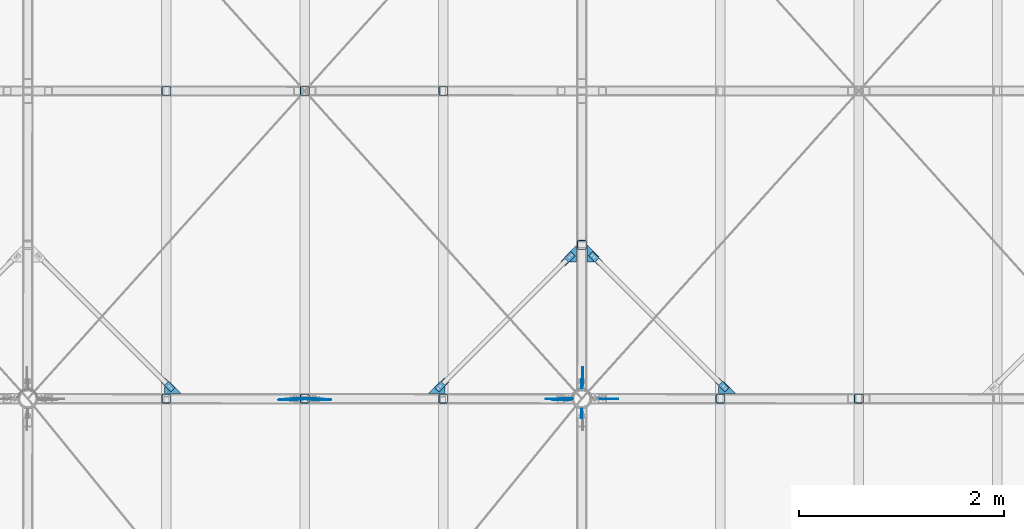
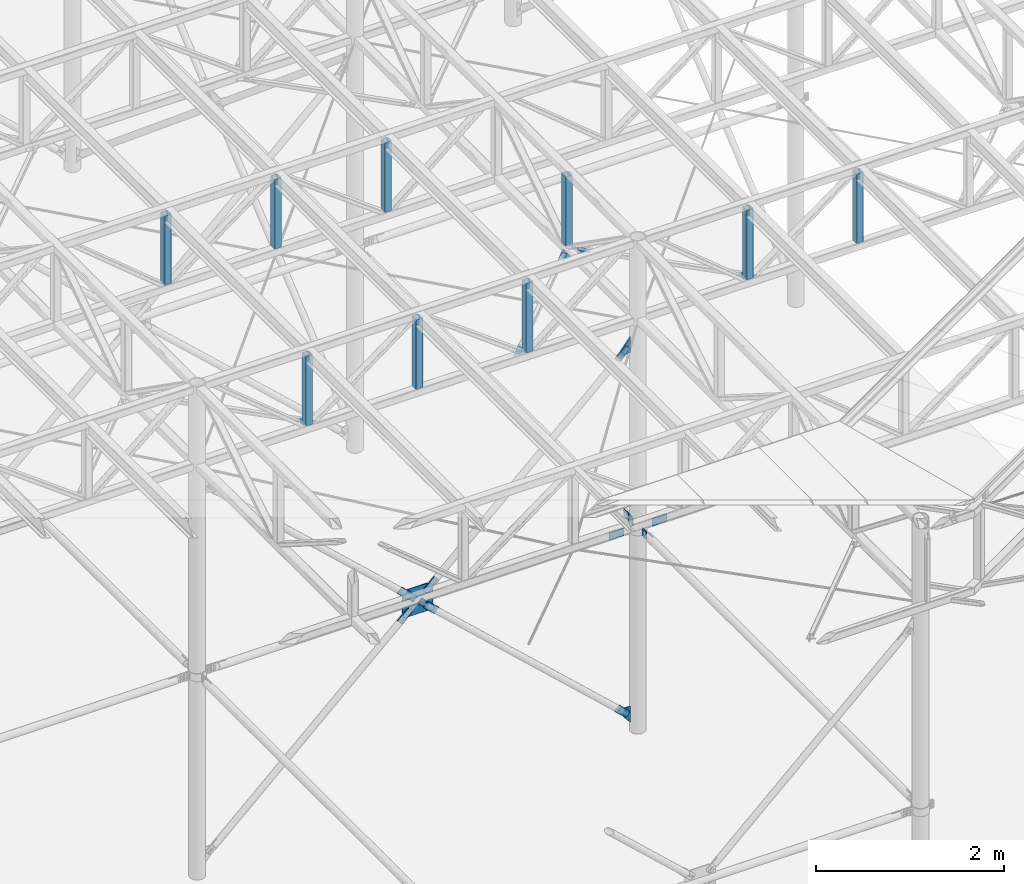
# One storey, part 80 of 132: 42 discrete accessories, 20 elements without a shape of their own.
"""IFC2X3 building model written with IfcOpenShell, lengths in millimetres."""

from ifc_helpers import new_model, si_unit, frame, origin_with_axes, origin_2d_with_axis, place, context, subcontext, project, spatial, polyline, rectangle, hollow_rectangle, outline, extrude, boolean, clip, halfspace, material, type_object, element, aggregate, save


model = new_model("IFC2X3")

# Units and contexts
model_context = context("Model", 3, precision=1e-05, world=origin_with_axes())
body_context = subcontext(model_context, "Body", "Model", "MODEL_VIEW")
ifc_project = project(units=[si_unit("LENGTHUNIT", "METRE", prefix="MILLI"), si_unit("AREAUNIT", "SQUARE_METRE"), si_unit("VOLUMEUNIT", "CUBIC_METRE"), si_unit("MASSUNIT", "GRAM", prefix="KILO"), si_unit("TIMEUNIT", "SECOND"), si_unit("PLANEANGLEUNIT", "RADIAN"), si_unit("SOLIDANGLEUNIT", "STERADIAN"), si_unit("THERMODYNAMICTEMPERATUREUNIT", "DEGREE_CELSIUS"), si_unit("LUMINOUSINTENSITYUNIT", "LUMEN")], contexts=[model_context])

# Site, building, storey
site_placement = place(None, origin_with_axes())
site = spatial("IfcSite", under=ifc_project, at=site_placement, Name="Budowa", CompositionType="ELEMENT")
building_placement = place(site_placement, origin_with_axes())
building = spatial("IfcBuilding", under=site, at=building_placement, Name="Undefined", CompositionType="ELEMENT")
storey_placement = place(building_placement, origin_with_axes())
storey = spatial("IfcBuildingStorey", under=building, at=storey_placement, Name="Undefined", CompositionType="ELEMENT", Elevation=0.0)

# Assembly, discrete accessory
assembly_1_placement = place(storey_placement, origin_with_axes())
assembly_1 = element("IfcElementAssembly", 1, at=assembly_1_placement, inside=storey, Name="Steel Assembly", AssemblyPlace="NOTDEFINED", PredefinedType="RIGID_FRAME")
ifc_material = material(Name="STEEL/S235")
discrete_accessory_type_1 = type_object("IfcDiscreteAccessoryType", Name="BLACHA")
discrete_accessory_1_placement = place(assembly_1_placement, frame((14998.1366941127, 5997.99999945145, 10116.0003779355), z_axis=(0.0, -1.0, 0.0), x_axis=(1.0, 0.0, 0.0)))
discrete_accessory_1 = element("IfcDiscreteAccessory", 2, at=discrete_accessory_1_placement, type_object=discrete_accessory_type_1, material=ifc_material, Name="BLACHA", ObjectType="BL8*100", context=body_context, shape_type="SweptSolid", body=[
    extrude(outline(polyline([(0.0, -50.0), (0.0, 50.0), (180.0, 50.0), (180.0, -50.0), (0.0, -50.0)])), frame((0.0, 0.0, -4.0), z_axis=(0.0, 0.0, 1.0), x_axis=(1.0, 0.0, 0.0)), (0.0, 0.0, 1.0), 8.0),
])
aggregate(assembly_1, [discrete_accessory_1])

assembly_2_placement = place(storey_placement, origin_with_axes())
assembly_2 = element("IfcElementAssembly", 3, at=assembly_2_placement, inside=storey, Name="Steel Assembly", AssemblyPlace="NOTDEFINED", PredefinedType="RIGID_FRAME")
discrete_accessory_2_placement = place(assembly_2_placement, frame((14824.9999972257, 5902.00435667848, 10066.0003759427), z_axis=(1.0, 0.0, 0.0), x_axis=(0.0, 0.0, 1.0)))
discrete_accessory_2 = element("IfcDiscreteAccessory", 4, at=discrete_accessory_2_placement, type_object=discrete_accessory_type_1, material=ifc_material, Name="BLACHA", ObjectType="BL8*90", context=body_context, shape_type="SweptSolid", body=[
    extrude(outline(polyline([(0.0, 0.0), (100.0, 0.0), (100.0, 89.9122619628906), (0.0, 89.9122619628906), (0.0, 0.0)])), frame((0.0, 0.0, -4.0), z_axis=(0.0, 0.0, 1.0), x_axis=(1.0, 0.0, 0.0)), (0.0, 0.0, 1.0), 8.0),
])
aggregate(assembly_2, [discrete_accessory_2])

assembly_3_placement = place(storey_placement, origin_with_axes())
assembly_3 = element("IfcElementAssembly", 5, at=assembly_3_placement, inside=storey, Name="Steel Assembly", AssemblyPlace="NOTDEFINED", PredefinedType="RIGID_FRAME")
discrete_accessory_3_placement = place(assembly_3_placement, frame((14832.9999969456, 6127.90790542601, 10116.0003779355), z_axis=(-1.0, 0.0, 0.0), x_axis=(0.0, 1.0, 0.0)))
discrete_accessory_3 = element("IfcDiscreteAccessory", 6, at=discrete_accessory_3_placement, type_object=discrete_accessory_type_1, material=ifc_material, Name="BLACHA", ObjectType="BL8*100", context=body_context, shape_type="SweptSolid", body=[
    extrude(outline(polyline([(0.0, 50.0), (180.0, 50.0), (180.0, -50.0), (0.0, -50.0), (0.0, 50.0)])), frame((0.0, 0.0, -4.0), z_axis=(0.0, 0.0, 1.0), x_axis=(1.0, 0.0, 0.0)), (0.0, 0.0, 1.0), 8.0),
])
aggregate(assembly_3, [discrete_accessory_3])

assembly_4_placement = place(storey_placement, origin_with_axes())
assembly_4 = element("IfcElementAssembly", 7, at=assembly_4_placement, inside=storey, Name="Steel Assembly", AssemblyPlace="NOTDEFINED", PredefinedType="RIGID_FRAME")
discrete_accessory_4_placement = place(assembly_4_placement, frame((14824.9999969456, 6097.99564346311, 10166.0003762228), z_axis=(1.0, 0.0, 0.0), x_axis=(0.0, 0.0, -1.0)))
discrete_accessory_4 = element("IfcDiscreteAccessory", 8, at=discrete_accessory_4_placement, type_object=discrete_accessory_type_1, material=ifc_material, Name="BLACHA", ObjectType="BL8*90", context=body_context, shape_type="SweptSolid", body=[
    extrude(outline(polyline([(0.0, 0.0), (100.0, 0.0), (100.0, 89.9122619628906), (0.0, 89.9122619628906), (0.0, 0.0)])), frame((0.0, 0.0, -4.0), z_axis=(0.0, 0.0, 1.0), x_axis=(1.0, 0.0, 0.0)), (0.0, 0.0, 1.0), 8.0),
])
aggregate(assembly_4, [discrete_accessory_4])

assembly_5_placement = place(storey_placement, origin_with_axes())
assembly_5 = element("IfcElementAssembly", 9, at=assembly_5_placement, inside=storey, Name="Steel Assembly", AssemblyPlace="NOTDEFINED", PredefinedType="RIGID_FRAME")
discrete_accessory_5_placement = place(assembly_5_placement, frame((12051.7643960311, 5989.99999711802, 9989.80782599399), z_axis=(0.0, -1.0, 0.0), x_axis=(0.0395984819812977, 0.0, 0.999215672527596)))
discrete_accessory_5 = element("IfcDiscreteAccessory", 10, at=discrete_accessory_5_placement, type_object=discrete_accessory_type_1, material=ifc_material, Name="BLACHA", ObjectType="BL8*86", context=body_context, shape_type="SweptSolid", body=[
    extrude(outline(polyline([(0.0, 0.0), (28.2842712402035, 3.27418092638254e-11), (60.8111839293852, 32.5269126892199), (60.8111839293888, 60.8111839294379), (-59.3969688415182, 181.019332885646), (-120.20815277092, 120.208152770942), (0.0, 0.0)])), frame((0.0, 0.0, -4.0), z_axis=(0.0, 0.0, 1.0), x_axis=(1.0, 0.0, 0.0)), (0.0, 0.0, 1.0), 8.0),
])
aggregate(assembly_5, [discrete_accessory_5])

assembly_6_placement = place(storey_placement, origin_with_axes())
assembly_6 = element("IfcElementAssembly", 11, at=assembly_6_placement, inside=storey, Name="Steel Assembly", AssemblyPlace="NOTDEFINED", PredefinedType="RIGID_FRAME")
discrete_accessory_6_placement = place(assembly_6_placement, frame((12256.5937301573, 5989.99999711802, 10052.9793444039), z_axis=(0.0, -1.0, 0.0), x_axis=(-0.999215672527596, 0.0, -0.0395984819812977)))
discrete_accessory_6 = element("IfcDiscreteAccessory", 12, at=discrete_accessory_6_placement, type_object=discrete_accessory_type_1, material=ifc_material, Name="BLACHA", ObjectType="BL8*86", context=body_context, shape_type="SweptSolid", body=[
    extrude(outline(polyline([(0.0, 0.0), (28.2842712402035, 3.27418092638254e-11), (60.8111839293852, 32.5269126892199), (60.8111839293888, 60.8111839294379), (-59.3969688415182, 181.019332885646), (-120.20815277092, 120.208152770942), (0.0, 0.0)])), frame((0.0, 0.0, -4.0), z_axis=(0.0, 0.0, 1.0), x_axis=(1.0, 0.0, 0.0)), (0.0, 0.0, 1.0), 8.0),
])

assembly_7_placement = place(storey_placement, origin_with_axes())
assembly_7 = element("IfcElementAssembly", 13, at=assembly_7_placement, inside=storey, Name="Steel Assembly", AssemblyPlace="NOTDEFINED", PredefinedType="RIGID_FRAME")
discrete_accessory_7_placement = place(assembly_7_placement, frame((12311.4051663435, 5997.99999711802, 10071.5503790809), z_axis=(0.0, -1.0, 0.0), x_axis=(-1.0, 0.0, 0.0)))
discrete_accessory_7 = element("IfcDiscreteAccessory", 14, at=discrete_accessory_7_placement, type_object=discrete_accessory_type_1, material=ifc_material, Name="BLACHA", ObjectType="BL8*133", context=body_context, shape_type="SweptSolid", body=[
    extrude(outline(polyline([(0.0, 0.0), (372.807678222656, 0.0), (372.807678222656, 62.396900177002), (307.666687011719, 132.913940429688), (65.1409759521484, 132.913940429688), (0.0, 62.396900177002), (0.0, 0.0)])), frame((0.0, 0.0, -4.0), z_axis=(0.0, 0.0, 1.0), x_axis=(1.0, 0.0, 0.0)), (0.0, 0.0, 1.0), 8.0),
])

assembly_8_placement = place(storey_placement, origin_with_axes())
assembly_8 = element("IfcElementAssembly", 15, at=assembly_8_placement, inside=storey, Name="Steel Assembly", AssemblyPlace="NOTDEFINED", PredefinedType="RIGID_FRAME")
discrete_accessory_8_placement = place(assembly_8_placement, frame((11993.4089373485, 5989.9999968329, 10179.021413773), z_axis=(0.0, -1.0, 0.0), x_axis=(0.999215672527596, 0.0, 0.0395984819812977)))
discrete_accessory_8 = element("IfcDiscreteAccessory", 16, at=discrete_accessory_8_placement, type_object=discrete_accessory_type_1, material=ifc_material, Name="BLACHA", ObjectType="BL8*86", context=body_context, shape_type="SweptSolid", body=[
    extrude(outline(polyline([(0.0, 0.0), (28.2842712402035, 3.27418092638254e-11), (60.8111839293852, 32.5269126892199), (60.8111839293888, 60.8111839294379), (-59.3969688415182, 181.019332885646), (-120.20815277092, 120.208152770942), (0.0, 0.0)])), frame((0.0, 0.0, -4.0), z_axis=(0.0, 0.0, 1.0), x_axis=(1.0, 0.0, 0.0)), (0.0, 0.0, 1.0), 8.0),
])
aggregate(assembly_8, [discrete_accessory_8])

assembly_9_placement = place(storey_placement, origin_with_axes())
assembly_9 = element("IfcElementAssembly", 17, at=assembly_9_placement, inside=storey, Name="Steel Assembly", AssemblyPlace="NOTDEFINED", PredefinedType="RIGID_FRAME")
discrete_accessory_9_placement = place(assembly_9_placement, frame((12198.2382714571, 5989.9999968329, 10242.1929274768), z_axis=(0.0, -1.0, 0.0), x_axis=(-0.0395984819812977, 0.0, -0.999215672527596)))
discrete_accessory_9 = element("IfcDiscreteAccessory", 18, at=discrete_accessory_9_placement, type_object=discrete_accessory_type_1, material=ifc_material, Name="BLACHA", ObjectType="BL8*86", context=body_context, shape_type="SweptSolid", body=[
    extrude(outline(polyline([(0.0, 0.0), (28.2842712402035, 3.27418092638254e-11), (60.8111839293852, 32.5269126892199), (60.8111839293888, 60.8111839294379), (-59.3969688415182, 181.019332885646), (-120.20815277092, 120.208152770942), (0.0, 0.0)])), frame((0.0, 0.0, -4.0), z_axis=(0.0, 0.0, 1.0), x_axis=(1.0, 0.0, 0.0)), (0.0, 0.0, 1.0), 8.0),
])

# Discrete accessory
discrete_accessory_10_placement = place(assembly_7_placement, frame((11938.5974989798, 5997.9999968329, 10160.4503767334), z_axis=(0.0, -1.0, 0.0), x_axis=(1.0, 0.0, 0.0)))
discrete_accessory_10 = element("IfcDiscreteAccessory", 19, at=discrete_accessory_10_placement, type_object=discrete_accessory_type_1, material=ifc_material, Name="BLACHA", ObjectType="BL8*133", context=body_context, shape_type="SweptSolid", body=[
    extrude(outline(polyline([(0.0, 0.0), (372.807678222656, 0.0), (372.807678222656, 62.396900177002), (307.666687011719, 132.913940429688), (65.1409759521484, 132.913940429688), (0.0, 62.396900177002), (0.0, 0.0)])), frame((0.0, 0.0, -4.0), z_axis=(0.0, 0.0, 1.0), x_axis=(1.0, 0.0, 0.0)), (0.0, 0.0, 1.0), 8.0),
])

discrete_accessory_11_placement = place(assembly_7_placement, frame((14651.863305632, 5997.99999945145, 10116.0003779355), z_axis=(0.0, 1.0, 0.0), x_axis=(-1.0, 0.0, 0.0)))
discrete_accessory_11 = element("IfcDiscreteAccessory", 20, at=discrete_accessory_11_placement, type_object=discrete_accessory_type_1, material=ifc_material, Name="BLACHA", ObjectType="BL8*100", context=body_context, shape_type="SweptSolid", body=[
    extrude(outline(polyline([(180.0, -50.0), (0.0, -50.0), (0.0, 50.0), (180.0, 50.0), (180.0, -50.0)])), frame((0.0, 0.0, -4.0), z_axis=(0.0, 0.0, 1.0), x_axis=(1.0, 0.0, 0.0)), (0.0, 0.0, 1.0), 8.0),
])

aggregate(assembly_7, [discrete_accessory_7, discrete_accessory_10, discrete_accessory_11])

discrete_accessory_12_placement = place(assembly_9_placement, frame((14702.6899626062, 5989.99999762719, 12497.1715521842), z_axis=(-0.678551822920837, 0.0, 0.734552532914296), x_axis=(-0.734552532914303, 0.0, -0.67855182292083)))
discrete_accessory_12 = element("IfcDiscreteAccessory", 21, at=discrete_accessory_12_placement, type_object=discrete_accessory_type_1, material=ifc_material, Name="BLACHA", ObjectType="BL8*86", context=body_context, shape_type="CSG", body=[
    boolean("DIFFERENCE", boolean("DIFFERENCE", extrude(rectangle(XDim=8.0, YDim=86.0, at=origin_2d_with_axis()), frame((190.000000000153, -3.63797880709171e-12, 3.30513394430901e-13), z_axis=(-1.0, 0.0, 0.0), x_axis=(0.0, -1.0, 0.0)), (0.0, 0.0, 1.0), 190.0), extrude(outline(polyline([(0.0, 0.0), (20.0000000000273, -3.63797880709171e-12), (5.45696821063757e-12, 20.0000000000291), (0.0, 0.0)])), frame((-1.81898940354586e-12, -6.50000242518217, -42.9999999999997), z_axis=(0.0, 1.0, 0.0), x_axis=(0.0, 0.0, 1.0)), (0.0, 0.0, 1.0), 13.0)), extrude(outline(polyline([(0.0, 0.0), (20.0000000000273, -3.63797880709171e-12), (5.45696821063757e-12, 20.0000000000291), (0.0, 0.0)])), frame((-1.81898940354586e-12, 6.49999757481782, 42.9999999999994), z_axis=(0.0, -1.0, 0.0), x_axis=(0.0, 0.0, -1.0)), (0.0, 0.0, 1.0), 13.0)),
])

aggregate(assembly_9, [discrete_accessory_9, discrete_accessory_12])

# Assembly, discrete accessory
assembly_10_placement = place(storey_placement, origin_with_axes())
assembly_10 = element("IfcElementAssembly", 22, at=assembly_10_placement, inside=storey, Name="Steel Assembly", AssemblyPlace="NOTDEFINED", PredefinedType="RIGID_FRAME")
discrete_accessory_13_placement = place(assembly_10_placement, frame((14736.1000002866, 5999.99900012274, 12407.0002670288), z_axis=(0.0, -1.0, 0.0), x_axis=(0.0, 0.0, 1.0)))
discrete_accessory_13 = element("IfcDiscreteAccessory", 23, at=discrete_accessory_13_placement, type_object=discrete_accessory_type_1, material=ifc_material, Name="BLACHA", ObjectType="BL8*126", context=body_context, shape_type="SweptSolid", body=[
    extrude(outline(polyline([(0.0, 0.0), (203.000061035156, 0.0), (203.000061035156, 10.0), (58.0005645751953, 125.999824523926), (-1.72803993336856e-10, 72.998420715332), (0.0, 0.0)])), frame((0.0, 0.0, -4.0), z_axis=(0.0, 0.0, 1.0), x_axis=(1.0, 0.0, 0.0)), (0.0, 0.0, 1.0), 8.0),
])

# Discrete accessory
discrete_accessory_14_placement = place(assembly_6_placement, frame((14702.689963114, 5989.99999734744, 7734.82920317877), z_axis=(0.678551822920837, 0.0, 0.734552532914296), x_axis=(-0.734552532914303, 0.0, 0.67855182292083)))
discrete_accessory_14 = element("IfcDiscreteAccessory", 24, at=discrete_accessory_14_placement, type_object=discrete_accessory_type_1, material=ifc_material, Name="BLACHA", ObjectType="BL8*86", context=body_context, shape_type="CSG", body=[
    boolean("DIFFERENCE", boolean("DIFFERENCE", extrude(rectangle(XDim=8.0, YDim=86.0, at=origin_2d_with_axis()), frame((190.000000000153, -3.63797880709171e-12, 3.30513394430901e-13), z_axis=(-1.0, 0.0, 0.0), x_axis=(0.0, -1.0, 0.0)), (0.0, 0.0, 1.0), 190.0), extrude(outline(polyline([(0.0, 0.0), (20.0000000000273, -3.63797880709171e-12), (5.45696821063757e-12, 20.0000000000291), (0.0, 0.0)])), frame((-1.81898940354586e-12, 6.49999757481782, 42.9999999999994), z_axis=(0.0, -1.0, 0.0), x_axis=(0.0, 0.0, -1.0)), (0.0, 0.0, 1.0), 13.0)), extrude(outline(polyline([(0.0, 0.0), (20.0000000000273, -3.63797880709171e-12), (5.45696821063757e-12, 20.0000000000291), (0.0, 0.0)])), frame((-1.81898940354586e-12, -6.50000242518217, -42.9999999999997), z_axis=(0.0, 1.0, 0.0), x_axis=(0.0, 0.0, 1.0)), (0.0, 0.0, 1.0), 13.0)),
])

aggregate(assembly_6, [discrete_accessory_6, discrete_accessory_14])

discrete_accessory_15_placement = place(assembly_10_placement, frame((14736.1000003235, 5999.99900012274, 7622.0004196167), z_axis=(0.0, -1.0, 0.0), x_axis=(0.0, 0.0, 1.0)))
discrete_accessory_15 = element("IfcDiscreteAccessory", 25, at=discrete_accessory_15_placement, type_object=discrete_accessory_type_1, material=ifc_material, Name="BLACHA", ObjectType="BL8*126", context=body_context, shape_type="SweptSolid", body=[
    extrude(outline(polyline([(0.0, 0.0), (203.000061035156, 0.0), (203.000076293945, 72.998420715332), (145.000457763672, 125.999824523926), (0.0, 10.0), (0.0, 0.0)])), frame((0.0, 0.0, -4.0), z_axis=(0.0, 0.0, 1.0), x_axis=(1.0, 0.0, 0.0)), (0.0, 0.0, 1.0), 8.0),
])

# Assembly, discrete accessory
assembly_11_placement = place(storey_placement, origin_with_axes())
assembly_11 = element("IfcElementAssembly", 26, at=assembly_11_placement, inside=storey, Name="Steel Assembly", AssemblyPlace="NOTDEFINED", PredefinedType="RIGID_FRAME")
discrete_accessory_16_placement = place(assembly_11_placement, frame((14702.689963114, 5991.99999734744, 7734.82920317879), z_axis=(0.678551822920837, 0.0, 0.734552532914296), x_axis=(-0.734552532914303, 0.0, 0.67855182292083)))
discrete_accessory_16 = element("IfcDiscreteAccessory", 27, at=discrete_accessory_16_placement, type_object=discrete_accessory_type_1, material=ifc_material, Name="BLACHA", ObjectType="BL8*69", context=body_context, shape_type="SweptSolid", body=[
    extrude(rectangle(XDim=8.0, YDim=69.0, at=origin_2d_with_axis()), frame((149.999999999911, 0.0, 0.0), z_axis=(-1.0, 0.0, 0.0), x_axis=(0.0, -1.0, 0.0)), (0.0, 0.0, 1.0), 150.0),
])

# Discrete accessory
discrete_accessory_17_placement = place(assembly_10_placement, frame((14736.1000003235, 5999.99999734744, 7650.19203918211), z_axis=(0.0, -1.0, 0.0), x_axis=(0.0, 0.0, 1.0)))
discrete_accessory_17 = element("IfcDiscreteAccessory", 28, at=discrete_accessory_17_placement, type_object=discrete_accessory_type_1, material=ifc_material, Name="BLACHA", ObjectType="BL8*126", context=body_context, shape_type="SweptSolid", body=[
    extrude(outline(polyline([(0.0, 0.0), (174.721649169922, 0.0), (174.721649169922, 72.7169723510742), (116.692001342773, 126.322563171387), (0.0, 10.0), (0.0, 0.0)])), frame((0.0, 0.0, -4.0), z_axis=(0.0, 0.0, 1.0), x_axis=(1.0, 0.0, 0.0)), (0.0, 0.0, 1.0), 8.0),
])

# Assembly, discrete accessory
assembly_12_placement = place(storey_placement, origin_with_axes())
assembly_12 = element("IfcElementAssembly", 29, at=assembly_12_placement, inside=storey, Name="Steel Assembly", AssemblyPlace="NOTDEFINED", PredefinedType="RIGID_FRAME")
discrete_accessory_18_placement = place(assembly_12_placement, frame((14702.6899626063, 5991.99999762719, 12497.1715521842), z_axis=(-0.678551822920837, 0.0, 0.734552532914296), x_axis=(-0.734552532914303, 0.0, -0.67855182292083)))
discrete_accessory_18 = element("IfcDiscreteAccessory", 30, at=discrete_accessory_18_placement, type_object=discrete_accessory_type_1, material=ifc_material, Name="BLACHA", ObjectType="BL8*69", context=body_context, shape_type="SweptSolid", body=[
    extrude(rectangle(XDim=8.0, YDim=69.0, at=origin_2d_with_axis()), frame((149.999999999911, 0.0, 0.0), z_axis=(-1.0, 0.0, 0.0), x_axis=(0.0, -1.0, 0.0)), (0.0, 0.0, 1.0), 150.0),
])

# Discrete accessory
discrete_accessory_19_placement = place(assembly_10_placement, frame((14736.1000002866, 5999.99999762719, 12407.0870645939), z_axis=(0.0, -1.0, 0.0), x_axis=(0.0, 0.0, 1.0)))
discrete_accessory_19 = element("IfcDiscreteAccessory", 31, at=discrete_accessory_19_placement, type_object=discrete_accessory_type_1, material=ifc_material, Name="BLACHA", ObjectType="BL8*126", context=body_context, shape_type="SweptSolid", body=[
    extrude(outline(polyline([(0.0, 0.0), (174.721649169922, 0.0), (174.721649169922, 10.0), (58.0296516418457, 126.322563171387), (0.0, 72.7169723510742), (0.0, 0.0)])), frame((0.0, 0.0, -4.0), z_axis=(0.0, 0.0, 1.0), x_axis=(1.0, 0.0, 0.0)), (0.0, 0.0, 1.0), 8.0),
])

aggregate(assembly_10, [discrete_accessory_13, discrete_accessory_15, discrete_accessory_17, discrete_accessory_19])

discrete_accessory_20_placement = place(assembly_11_placement, frame((12156.0118626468, 5991.99999772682, 10087.3540261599), z_axis=(-0.67855182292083, 0.0, -0.734552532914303), x_axis=(0.734552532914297, 0.0, -0.678551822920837)))
discrete_accessory_20 = element("IfcDiscreteAccessory", 32, at=discrete_accessory_20_placement, type_object=discrete_accessory_type_1, material=ifc_material, Name="BLACHA", ObjectType="BL8*69", context=body_context, shape_type="SweptSolid", body=[
    extrude(rectangle(XDim=8.0, YDim=69.0, at=origin_2d_with_axis()), frame((149.999999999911, 0.0, 0.0), z_axis=(-1.0, 0.0, 0.0), x_axis=(0.0, -1.0, 0.0)), (0.0, 0.0, 1.0), 150.0),
])

aggregate(assembly_11, [discrete_accessory_16, discrete_accessory_20])

discrete_accessory_21_placement = place(assembly_12_placement, frame((12181.529211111, 5999.99999772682, 10128.256469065), z_axis=(0.0, -1.0, 0.0), x_axis=(-0.734552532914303, 0.0, -0.67855182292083)))
discrete_accessory_21 = element("IfcDiscreteAccessory", 33, at=discrete_accessory_21_placement, type_object=discrete_accessory_type_1, material=ifc_material, Name="BLACHA", ObjectType="BL8*87", context=body_context, shape_type="SweptSolid", body=[
    extrude(outline(polyline([(0.0, 0.0), (87.1330947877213, 3.63797880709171e-12), (78.7522506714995, 105.573730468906), (-3.63797880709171e-12, 99.3220748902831), (0.0, 0.0)])), frame((0.0, 0.0, -4.0), z_axis=(0.0, 0.0, 1.0), x_axis=(1.0, 0.0, 0.0)), (0.0, 0.0, 1.0), 8.0),
])

# Assembly, discrete accessory
assembly_13_placement = place(storey_placement, origin_with_axes())
assembly_13 = element("IfcElementAssembly", 34, at=assembly_13_placement, inside=storey, Name="Steel Assembly", AssemblyPlace="NOTDEFINED", PredefinedType="RIGID_FRAME")
discrete_accessory_22_placement = place(assembly_13_placement, frame((12093.9908069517, 5991.99999752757, 10144.6467300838), z_axis=(0.678551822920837, 0.0, 0.734552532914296), x_axis=(-0.734552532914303, 0.0, 0.67855182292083)))
discrete_accessory_22 = element("IfcDiscreteAccessory", 35, at=discrete_accessory_22_placement, type_object=discrete_accessory_type_1, material=ifc_material, Name="BLACHA", ObjectType="BL8*69", context=body_context, shape_type="SweptSolid", body=[
    extrude(rectangle(XDim=8.0, YDim=69.0, at=origin_2d_with_axis()), frame((149.999999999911, 0.0, 0.0), z_axis=(-1.0, 0.0, 0.0), x_axis=(0.0, -1.0, 0.0)), (0.0, 0.0, 1.0), 150.0),
])
aggregate(assembly_13, [discrete_accessory_22])

# Discrete accessory
discrete_accessory_23_placement = place(assembly_12_placement, frame((12068.4734567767, 5999.99999752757, 10103.7442853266), z_axis=(0.0, -1.0, 0.0), x_axis=(0.734552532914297, 0.0, 0.678551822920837)))
discrete_accessory_23 = element("IfcDiscreteAccessory", 36, at=discrete_accessory_23_placement, type_object=discrete_accessory_type_1, material=ifc_material, Name="BLACHA", ObjectType="BL8*87", context=body_context, shape_type="SweptSolid", body=[
    extrude(outline(polyline([(0.0, 0.0), (87.1330947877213, 3.63797880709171e-12), (78.7522506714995, 105.573730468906), (-3.63797880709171e-12, 99.3220748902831), (0.0, 0.0)])), frame((0.0, 0.0, -4.0), z_axis=(0.0, 0.0, 1.0), x_axis=(1.0, 0.0, 0.0)), (0.0, 0.0, 1.0), 8.0),
])

aggregate(assembly_12, [discrete_accessory_18, discrete_accessory_21, discrete_accessory_23])

# Assembly, discrete accessory
assembly_14_placement = place(storey_placement, origin_with_axes())
assembly_14 = element("IfcElementAssembly", 37, at=assembly_14_placement, inside=storey, Name="Steel Assembly", AssemblyPlace="NOTDEFINED", PredefinedType="RIGID_FRAME")
discrete_accessory_24_placement = place(assembly_14_placement, frame((16119.3786418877, 6162.99495131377, 12830.0), z_axis=(0.0, 0.0, 1.0), x_axis=(0.707106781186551, -0.707106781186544, 0.0)))
discrete_accessory_24 = element("IfcDiscreteAccessory", 38, at=discrete_accessory_24_placement, type_object=discrete_accessory_type_1, material=ifc_material, Name="BLACHA", ObjectType="BL6*60", context=body_context, shape_type="SweptSolid", body=[
    extrude(outline(polyline([(0.0, 0.0), (139.99999999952, -6.2755134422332e-10), (139.99999999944, 59.9999999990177), (0.0, 60.0), (-8.00355337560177e-11, 54.9999999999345), (49.9999999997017, 54.9999999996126), (49.9999999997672, 4.99999999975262), (-8.73114913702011e-11, 5.00000000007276), (0.0, 0.0)])), frame((0.0, 0.0, -3.0), z_axis=(0.0, 0.0, 1.0), x_axis=(1.0, 0.0, 0.0)), (0.0, 0.0, 1.0), 6.0),
])

assembly_15_placement = place(storey_placement, origin_with_axes())
assembly_15 = element("IfcElementAssembly", 39, at=assembly_15_placement, inside=storey, Name="Steel Assembly", AssemblyPlace="NOTDEFINED", PredefinedType="RIGID_FRAME")
discrete_accessory_25_placement = place(assembly_15_placement, frame((16158.2695167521, 6050.00000004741, 12824.0), z_axis=(0.0, 0.0, 1.0), x_axis=(1.0, 0.0, 0.0)))
discrete_accessory_25 = element("IfcDiscreteAccessory", 40, at=discrete_accessory_25_placement, type_object=discrete_accessory_type_1, material=ifc_material, Name="BLACHA", ObjectType="BL6*117", context=body_context, shape_type="SweptSolid", body=[
    extrude(outline(polyline([(0.0, 0.0), (166.027954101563, 0.0), (49.4974746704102, 116.530487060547), (0.0, 67.0330123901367), (0.0, 0.0)])), frame((0.0, 0.0, -3.0), z_axis=(0.0, 0.0, 1.0), x_axis=(1.0, 0.0, 0.0)), (0.0, 0.0, 1.0), 6.0),
])

# Discrete accessory
discrete_accessory_26_placement = place(assembly_14_placement, frame((15030.4213580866, 7336.80504885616, 12830.0), z_axis=(0.0, 0.0, 1.0), x_axis=(-0.707106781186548, 0.707106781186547, 0.0)))
discrete_accessory_26 = element("IfcDiscreteAccessory", 41, at=discrete_accessory_26_placement, type_object=discrete_accessory_type_1, material=ifc_material, Name="BLACHA", ObjectType="BL6*60", context=body_context, shape_type="SweptSolid", body=[
    extrude(outline(polyline([(0.0, 0.0), (139.99999999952, -6.2755134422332e-10), (139.99999999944, 59.9999999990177), (0.0, 60.0), (-8.00355337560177e-11, 54.9999999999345), (49.9999999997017, 54.9999999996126), (49.9999999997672, 4.99999999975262), (-8.73114913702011e-11, 5.00000000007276), (0.0, 0.0)])), frame((0.0, 0.0, -3.0), z_axis=(0.0, 0.0, 1.0), x_axis=(1.0, 0.0, 0.0)), (0.0, 0.0, 1.0), 6.0),
])

aggregate(assembly_14, [discrete_accessory_24, discrete_accessory_26])

# Assembly, discrete accessory
assembly_16_placement = place(storey_placement, origin_with_axes())
assembly_16 = element("IfcElementAssembly", 42, at=assembly_16_placement, inside=storey, Name="Steel Assembly", AssemblyPlace="NOTDEFINED", PredefinedType="RIGID_FRAME")
discrete_accessory_27_placement = place(assembly_16_placement, frame((14874.999999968, 7499.29747478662, 12824.0), z_axis=(0.0, 0.0, 1.0), x_axis=(0.0, -1.0, 0.0)))
discrete_accessory_27 = element("IfcDiscreteAccessory", 43, at=discrete_accessory_27_placement, type_object=discrete_accessory_type_1, material=ifc_material, Name="BLACHA", ObjectType="BL6*117", context=body_context, shape_type="SweptSolid", body=[
    extrude(outline(polyline([(0.0, 0.0), (166.027954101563, 0.0), (166.027954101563, 67.0330123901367), (116.530487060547, 116.530487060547), (0.0, 0.0)])), frame((0.0, 0.0, -3.0), z_axis=(0.0, 0.0, 1.0), x_axis=(1.0, 0.0, 0.0)), (0.0, 0.0, 1.0), 6.0),
])

assembly_17_placement = place(storey_placement, origin_with_axes())
assembly_17 = element("IfcElementAssembly", 44, at=assembly_17_placement, inside=storey, Name="Steel Assembly", AssemblyPlace="NOTDEFINED", PredefinedType="RIGID_FRAME")
discrete_accessory_28_placement = place(assembly_17_placement, frame((13488.1949511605, 6205.42135816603, 12830.0), z_axis=(0.0, 0.0, 1.0), x_axis=(-0.70710678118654, -0.707106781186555, 0.0)))
discrete_accessory_28 = element("IfcDiscreteAccessory", 45, at=discrete_accessory_28_placement, type_object=discrete_accessory_type_1, material=ifc_material, Name="BLACHA", ObjectType="BL6*60", context=body_context, shape_type="SweptSolid", body=[
    extrude(outline(polyline([(0.0, 0.0), (139.99999999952, -6.2755134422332e-10), (139.99999999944, 59.9999999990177), (0.0, 60.0), (-8.00355337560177e-11, 54.9999999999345), (49.9999999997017, 54.9999999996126), (49.9999999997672, 4.99999999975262), (-8.73114913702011e-11, 5.00000000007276), (0.0, 0.0)])), frame((0.0, 0.0, -3.0), z_axis=(0.0, 0.0, 1.0), x_axis=(1.0, 0.0, 0.0)), (0.0, 0.0, 1.0), 6.0),
])

assembly_18_placement = place(storey_placement, origin_with_axes())
assembly_18 = element("IfcElementAssembly", 46, at=assembly_18_placement, inside=storey, Name="Steel Assembly", AssemblyPlace="NOTDEFINED", PredefinedType="RIGID_FRAME")
discrete_accessory_29_placement = place(assembly_18_placement, frame((13325.70252523, 6050.00000004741, 12824.0), z_axis=(0.0, 0.0, 1.0), x_axis=(1.0, 0.0, 0.0)))
discrete_accessory_29 = element("IfcDiscreteAccessory", 47, at=discrete_accessory_29_placement, type_object=discrete_accessory_type_1, material=ifc_material, Name="BLACHA", ObjectType="BL6*117", context=body_context, shape_type="SweptSolid", body=[
    extrude(outline(polyline([(0.0, 0.0), (166.027954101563, 0.0), (166.027954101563, 67.0330123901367), (116.530487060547, 116.530487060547), (0.0, 0.0)])), frame((0.0, 0.0, -3.0), z_axis=(0.0, 0.0, 1.0), x_axis=(1.0, 0.0, 0.0)), (0.0, 0.0, 1.0), 6.0),
])

# Discrete accessory
discrete_accessory_30_placement = place(assembly_17_placement, frame((14662.0050487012, 7294.37864196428, 12830.0), z_axis=(0.0, 0.0, 1.0), x_axis=(0.707106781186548, 0.707106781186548, 0.0)))
discrete_accessory_30 = element("IfcDiscreteAccessory", 48, at=discrete_accessory_30_placement, type_object=discrete_accessory_type_1, material=ifc_material, Name="BLACHA", ObjectType="BL6*60", context=body_context, shape_type="SweptSolid", body=[
    extrude(outline(polyline([(0.0, 0.0), (139.99999999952, -6.2755134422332e-10), (139.99999999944, 59.9999999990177), (0.0, 60.0), (-8.00355337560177e-11, 54.9999999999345), (49.9999999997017, 54.9999999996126), (49.9999999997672, 4.99999999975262), (-8.73114913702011e-11, 5.00000000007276), (0.0, 0.0)])), frame((0.0, 0.0, -3.0), z_axis=(0.0, 0.0, 1.0), x_axis=(1.0, 0.0, 0.0)), (0.0, 0.0, 1.0), 6.0),
])

aggregate(assembly_17, [discrete_accessory_28, discrete_accessory_30])

discrete_accessory_31_placement = place(assembly_16_placement, frame((14774.999999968, 7333.26951683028, 12824.0), z_axis=(0.0, 0.0, 1.0), x_axis=(0.0, 1.0, 0.0)))
discrete_accessory_31 = element("IfcDiscreteAccessory", 49, at=discrete_accessory_31_placement, type_object=discrete_accessory_type_1, material=ifc_material, Name="BLACHA", ObjectType="BL6*117", context=body_context, shape_type="SweptSolid", body=[
    extrude(outline(polyline([(0.0, 0.0), (166.027954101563, 0.0), (49.4974746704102, 116.530487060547), (0.0, 67.0330123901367), (0.0, 0.0)])), frame((0.0, 0.0, -3.0), z_axis=(0.0, 0.0, 1.0), x_axis=(1.0, 0.0, 0.0)), (0.0, 0.0, 1.0), 6.0),
])

# Assembly, discrete accessory
assembly_19_placement = place(storey_placement, origin_with_axes())
assembly_19 = element("IfcElementAssembly", 50, at=assembly_19_placement, inside=storey, Name="Steel Assembly", AssemblyPlace="NOTDEFINED", PredefinedType="RIGID_FRAME")
discrete_accessory_32_placement = place(assembly_19_placement, frame((10719.3786418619, 6162.99495131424, 12830.0), z_axis=(0.0, 0.0, 1.0), x_axis=(0.707106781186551, -0.707106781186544, 0.0)))
discrete_accessory_32 = element("IfcDiscreteAccessory", 51, at=discrete_accessory_32_placement, type_object=discrete_accessory_type_1, material=ifc_material, Name="BLACHA", ObjectType="BL6*60", context=body_context, shape_type="SweptSolid", body=[
    extrude(outline(polyline([(0.0, 0.0), (139.99999999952, -6.2755134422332e-10), (139.99999999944, 59.9999999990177), (0.0, 60.0), (-8.00355337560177e-11, 54.9999999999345), (49.9999999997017, 54.9999999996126), (49.9999999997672, 4.99999999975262), (-8.73114913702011e-11, 5.00000000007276), (0.0, 0.0)])), frame((0.0, 0.0, -3.0), z_axis=(0.0, 0.0, 1.0), x_axis=(1.0, 0.0, 0.0)), (0.0, 0.0, 1.0), 6.0),
])
aggregate(assembly_19, [discrete_accessory_32])

# Discrete accessory
discrete_accessory_33_placement = place(assembly_18_placement, frame((10758.2695167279, 6050.00000004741, 12824.0), z_axis=(0.0, 0.0, 1.0), x_axis=(1.0, 0.0, 0.0)))
discrete_accessory_33 = element("IfcDiscreteAccessory", 52, at=discrete_accessory_33_placement, type_object=discrete_accessory_type_1, material=ifc_material, Name="BLACHA", ObjectType="BL6*117", context=body_context, shape_type="SweptSolid", body=[
    extrude(outline(polyline([(0.0, 0.0), (166.027954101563, 0.0), (49.4974746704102, 116.530487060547), (0.0, 67.0330123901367), (0.0, 0.0)])), frame((0.0, 0.0, -3.0), z_axis=(0.0, 0.0, 1.0), x_axis=(1.0, 0.0, 0.0)), (0.0, 0.0, 1.0), 6.0),
])

# Assembly, discrete accessories
assembly_20_placement = place(storey_placement, origin_with_axes())
assembly_20 = element("IfcElementAssembly", 53, at=assembly_20_placement, inside=storey, Name="Steel Assembly", AssemblyPlace="NOTDEFINED", PredefinedType="RIGID_FRAME")
discrete_accessory_type_2 = type_object("IfcDiscreteAccessoryType", Name="BEAM")
discrete_accessory_34_placement = place(assembly_20_placement, frame((13474.9999999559, 9000.00000004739, 13780.0), z_axis=(0.0, -1.0, 0.0), x_axis=(0.0, 0.0, -1.0)))
discrete_accessory_34 = element("IfcDiscreteAccessory", 54, at=discrete_accessory_34_placement, type_object=discrete_accessory_type_2, material=ifc_material, Name="BEAM", ObjectType="SHS90*6", context=body_context, shape_type="Clipping", body=[
    clip(clip(extrude(hollow_rectangle(XDim=90.0, YDim=90.0, WallThickness=6.0, InnerFilletRadius=6.0, OuterFilletRadius=12.0, at=origin_2d_with_axis()), frame((900.0, 0.0, 0.0), z_axis=(-1.0, 0.0, 0.0), x_axis=(0.0, -1.0, 0.0)), (0.0, 0.0, 1.0), 900.0), halfspace(frame((900.0, 0.0, 1000.0), z_axis=(-1.0, 0.0, 0.0), x_axis=(0.0, -1.0, 0.0)), True)), halfspace(frame((0.0, 0.0, 1000.0), z_axis=(1.0, 0.0, 0.0), x_axis=(0.0, 1.0, 0.0)), True)),
])
discrete_accessory_35_placement = place(assembly_20_placement, frame((10774.9999999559, 9000.00000004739, 13780.0), z_axis=(0.0, -1.0, 0.0), x_axis=(0.0, 0.0, -1.0)))
discrete_accessory_35 = element("IfcDiscreteAccessory", 55, at=discrete_accessory_35_placement, type_object=discrete_accessory_type_2, material=ifc_material, Name="BEAM", ObjectType="SHS90*6", context=body_context, shape_type="Clipping", body=[
    clip(clip(extrude(hollow_rectangle(XDim=90.0, YDim=90.0, WallThickness=6.0, InnerFilletRadius=6.0, OuterFilletRadius=12.0, at=origin_2d_with_axis()), frame((900.0, 0.0, 0.0), z_axis=(-1.0, 0.0, 0.0), x_axis=(0.0, -1.0, 0.0)), (0.0, 0.0, 1.0), 900.0), halfspace(frame((900.0, 0.0, 1000.0), z_axis=(-1.0, 0.0, 0.0), x_axis=(0.0, -1.0, 0.0)), True)), halfspace(frame((0.0, 0.0, 1000.0), z_axis=(1.0, 0.0, 0.0), x_axis=(0.0, 1.0, 0.0)), True)),
])
discrete_accessory_36_placement = place(assembly_20_placement, frame((12124.9999999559, 9000.00000004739, 13780.0), z_axis=(0.0, -1.0, 0.0), x_axis=(0.0, 0.0, -1.0)))
discrete_accessory_36 = element("IfcDiscreteAccessory", 56, at=discrete_accessory_36_placement, type_object=discrete_accessory_type_2, material=ifc_material, Name="BEAM", ObjectType="SHS90*6", context=body_context, shape_type="Clipping", body=[
    clip(clip(extrude(hollow_rectangle(XDim=90.0, YDim=90.0, WallThickness=6.0, InnerFilletRadius=6.0, OuterFilletRadius=12.0, at=origin_2d_with_axis()), frame((900.0, 0.0, 0.0), z_axis=(-1.0, 0.0, 0.0), x_axis=(0.0, -1.0, 0.0)), (0.0, 0.0, 1.0), 900.0), halfspace(frame((900.0, 0.0, 1000.0), z_axis=(-1.0, 0.0, 0.0), x_axis=(0.0, -1.0, 0.0)), True)), halfspace(frame((0.0, 0.0, 1000.0), z_axis=(1.0, 0.0, 0.0), x_axis=(0.0, 1.0, 0.0)), True)),
])
aggregate(assembly_20, [discrete_accessory_34, discrete_accessory_35, discrete_accessory_36])

# Discrete accessory
discrete_accessory_37_placement = place(assembly_16_placement, frame((14824.999999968, 7500.00000004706, 13780.0), z_axis=(1.0, 0.0, 0.0), x_axis=(0.0, 0.0, -1.0)))
discrete_accessory_37 = element("IfcDiscreteAccessory", 57, at=discrete_accessory_37_placement, type_object=discrete_accessory_type_2, material=ifc_material, Name="BEAM", ObjectType="SHS90*6", context=body_context, shape_type="Clipping", body=[
    clip(clip(extrude(hollow_rectangle(XDim=90.0, YDim=90.0, WallThickness=6.0, InnerFilletRadius=6.0, OuterFilletRadius=12.0, at=origin_2d_with_axis()), frame((900.0, 0.0, 0.0), z_axis=(-1.0, 0.0, 0.0), x_axis=(0.0, -1.0, 0.0)), (0.0, 0.0, 1.0), 900.0), halfspace(frame((900.0, 0.0, 1000.0), z_axis=(-1.0, 0.0, 0.0), x_axis=(0.0, -1.0, 0.0)), True)), halfspace(frame((0.0, 0.0, 1000.0), z_axis=(1.0, 0.0, 0.0), x_axis=(0.0, 1.0, 0.0)), True)),
])

aggregate(assembly_16, [discrete_accessory_27, discrete_accessory_31, discrete_accessory_37])

discrete_accessory_38_placement = place(assembly_15_placement, frame((16174.9999999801, 6000.00000004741, 13780.0), z_axis=(0.0, -1.0, 0.0), x_axis=(0.0, 0.0, -1.0)))
discrete_accessory_38 = element("IfcDiscreteAccessory", 58, at=discrete_accessory_38_placement, type_object=discrete_accessory_type_2, material=ifc_material, Name="BEAM", ObjectType="SHS90*6", context=body_context, shape_type="Clipping", body=[
    clip(clip(extrude(hollow_rectangle(XDim=90.0, YDim=90.0, WallThickness=6.0, InnerFilletRadius=6.0, OuterFilletRadius=12.0, at=origin_2d_with_axis()), frame((900.0, 0.0, 0.0), z_axis=(-1.0, 0.0, 0.0), x_axis=(0.0, -1.0, 0.0)), (0.0, 0.0, 1.0), 900.0), halfspace(frame((900.0, 0.0, 1000.0), z_axis=(-1.0, 0.0, 0.0), x_axis=(0.0, -1.0, 0.0)), True)), halfspace(frame((0.0, 0.0, 1000.0), z_axis=(1.0, 0.0, 0.0), x_axis=(0.0, 1.0, 0.0)), True)),
])

discrete_accessory_39_placement = place(assembly_15_placement, frame((17524.9999999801, 6000.00000004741, 13780.0), z_axis=(0.0, -1.0, 0.0), x_axis=(0.0, 0.0, -1.0)))
discrete_accessory_39 = element("IfcDiscreteAccessory", 59, at=discrete_accessory_39_placement, type_object=discrete_accessory_type_2, material=ifc_material, Name="BEAM", ObjectType="SHS90*6", context=body_context, shape_type="Clipping", body=[
    clip(clip(extrude(hollow_rectangle(XDim=90.0, YDim=90.0, WallThickness=6.0, InnerFilletRadius=6.0, OuterFilletRadius=12.0, at=origin_2d_with_axis()), frame((900.0, 0.0, 0.0), z_axis=(-1.0, 0.0, 0.0), x_axis=(0.0, -1.0, 0.0)), (0.0, 0.0, 1.0), 900.0), halfspace(frame((900.0, 0.0, 1000.0), z_axis=(-1.0, 0.0, 0.0), x_axis=(0.0, -1.0, 0.0)), True)), halfspace(frame((0.0, 0.0, 1000.0), z_axis=(1.0, 0.0, 0.0), x_axis=(0.0, 1.0, 0.0)), True)),
])

aggregate(assembly_15, [discrete_accessory_25, discrete_accessory_38, discrete_accessory_39])

discrete_accessory_40_placement = place(assembly_18_placement, frame((13474.9999999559, 6000.00000004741, 13780.0), z_axis=(0.0, -1.0, 0.0), x_axis=(0.0, 0.0, -1.0)))
discrete_accessory_40 = element("IfcDiscreteAccessory", 60, at=discrete_accessory_40_placement, type_object=discrete_accessory_type_2, material=ifc_material, Name="BEAM", ObjectType="SHS90*6", context=body_context, shape_type="Clipping", body=[
    clip(clip(extrude(hollow_rectangle(XDim=90.0, YDim=90.0, WallThickness=6.0, InnerFilletRadius=6.0, OuterFilletRadius=12.0, at=origin_2d_with_axis()), frame((900.0, 0.0, 0.0), z_axis=(-1.0, 0.0, 0.0), x_axis=(0.0, -1.0, 0.0)), (0.0, 0.0, 1.0), 900.0), halfspace(frame((900.0, 0.0, 1000.0), z_axis=(-1.0, 0.0, 0.0), x_axis=(0.0, -1.0, 0.0)), True)), halfspace(frame((0.0, 0.0, 1000.0), z_axis=(1.0, 0.0, 0.0), x_axis=(0.0, 1.0, 0.0)), True)),
])

discrete_accessory_41_placement = place(assembly_18_placement, frame((10774.9999999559, 6000.00000004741, 13780.0), z_axis=(0.0, -1.0, 0.0), x_axis=(0.0, 0.0, -1.0)))
discrete_accessory_41 = element("IfcDiscreteAccessory", 61, at=discrete_accessory_41_placement, type_object=discrete_accessory_type_2, material=ifc_material, Name="BEAM", ObjectType="SHS90*6", context=body_context, shape_type="Clipping", body=[
    clip(clip(extrude(hollow_rectangle(XDim=90.0, YDim=90.0, WallThickness=6.0, InnerFilletRadius=6.0, OuterFilletRadius=12.0, at=origin_2d_with_axis()), frame((900.0, 0.0, 0.0), z_axis=(-1.0, 0.0, 0.0), x_axis=(0.0, -1.0, 0.0)), (0.0, 0.0, 1.0), 900.0), halfspace(frame((900.0, 0.0, 1000.0), z_axis=(-1.0, 0.0, 0.0), x_axis=(0.0, -1.0, 0.0)), True)), halfspace(frame((0.0, 0.0, 1000.0), z_axis=(1.0, 0.0, 0.0), x_axis=(0.0, 1.0, 0.0)), True)),
])

discrete_accessory_42_placement = place(assembly_18_placement, frame((12124.9999999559, 6000.00000004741, 13780.0), z_axis=(0.0, -1.0, 0.0), x_axis=(0.0, 0.0, -1.0)))
discrete_accessory_42 = element("IfcDiscreteAccessory", 62, at=discrete_accessory_42_placement, type_object=discrete_accessory_type_2, material=ifc_material, Name="BEAM", ObjectType="SHS90*6", context=body_context, shape_type="Clipping", body=[
    clip(clip(extrude(hollow_rectangle(XDim=90.0, YDim=90.0, WallThickness=6.0, InnerFilletRadius=6.0, OuterFilletRadius=12.0, at=origin_2d_with_axis()), frame((900.0, 0.0, 0.0), z_axis=(-1.0, 0.0, 0.0), x_axis=(0.0, -1.0, 0.0)), (0.0, 0.0, 1.0), 900.0), halfspace(frame((900.0, 0.0, 1000.0), z_axis=(-1.0, 0.0, 0.0), x_axis=(0.0, -1.0, 0.0)), True)), halfspace(frame((0.0, 0.0, 1000.0), z_axis=(1.0, 0.0, 0.0), x_axis=(0.0, 1.0, 0.0)), True)),
])

aggregate(assembly_18, [discrete_accessory_29, discrete_accessory_33, discrete_accessory_40, discrete_accessory_41, discrete_accessory_42])

save(model, "model.ifc")
